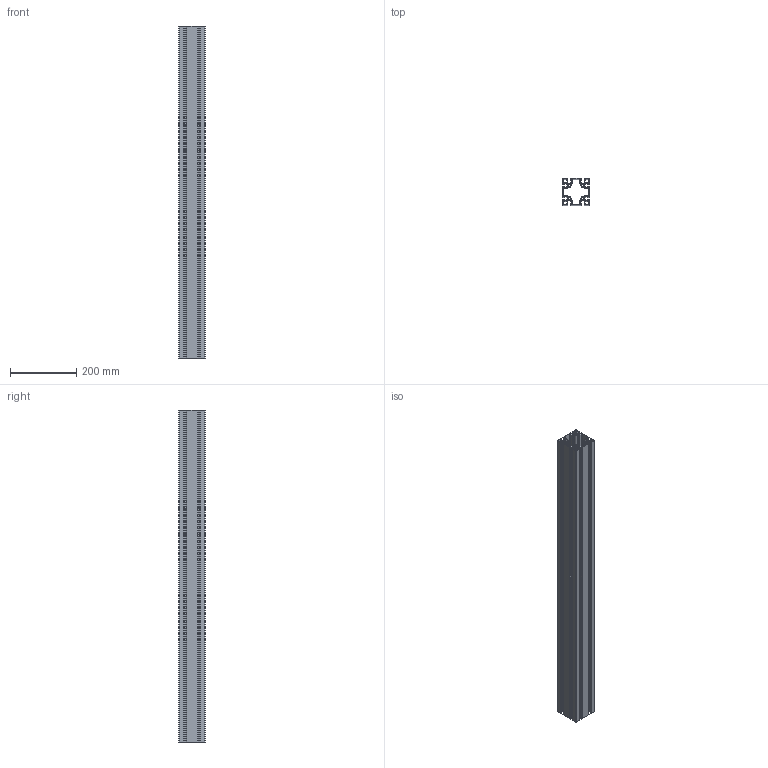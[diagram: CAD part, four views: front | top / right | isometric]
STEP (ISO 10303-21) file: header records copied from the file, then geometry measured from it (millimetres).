
FILE_DESCRIPTION((''),'2;1');
FILE_NAME('\\Dtp_2\share\iriguchi2\M8フレーム\AFS-8080F-8.stp','2014-12-01T13:13:49',('AMS8'),(''),'Autodesk Inventor 2008','Autodesk Inventor 2008','');
FILE_SCHEMA(('AUTOMOTIVE_DESIGN { 1 0 10303 214 1 1 1 1 }'));
Length unit declared in the file: millimetre
Products named in the file (1): Part55
Bounding box: 80 x 80 x 1000 mm (x, y, z)
Volume: 1064866 mm3; surface area: 1214442.3 mm2
Topology: 1 solids, 1 shells, 350 faces, 1044 edges, 696 vertices
Faces by surface type: cylinder 188, plane 162
Full cylindrical faces by diameter (mm): 6.8 x4
Entity records: 11926 total; most frequent: DIRECTION 2118, CARTESIAN_POINT 2087, ORIENTED_EDGE 2080, EDGE_CURVE 1040, AXIS2_PLACEMENT_3D 727, VERTEX_POINT 696, VECTOR 664, LINE 664
